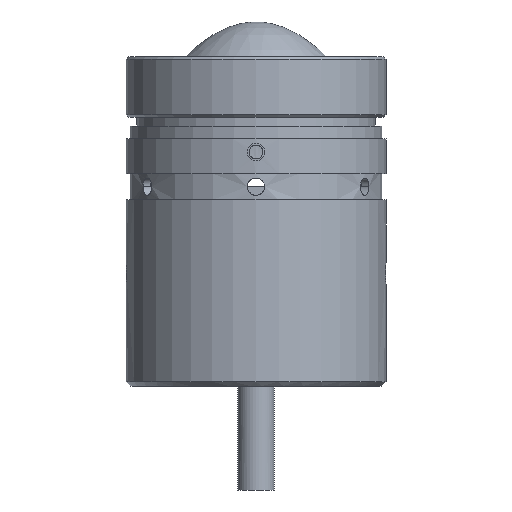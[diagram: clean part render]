
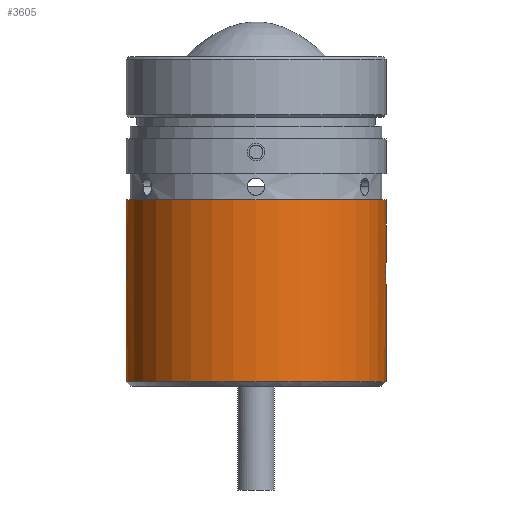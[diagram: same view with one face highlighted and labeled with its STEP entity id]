
A CAD part, front view. The second image highlights one B-rep face of the part: STEP entity #3605.
In plain terms, the highlighted cylindrical face has radius 15 mm (diameter 30 mm), a partial arc.
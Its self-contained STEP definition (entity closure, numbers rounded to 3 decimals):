
#427=DIRECTION('',(0.,0.,1.));
#428=VECTOR('',#427,11.25);
#429=CARTESIAN_POINT('',(15.,0.,-14.5));
#430=LINE('',#429,#428);
#440=CARTESIAN_POINT('',(15.,0.,-3.25));
#442=CARTESIAN_POINT('',(15.,0.,-0.75));
#455=DIRECTION('',(0.,0.,1.));
#456=VECTOR('',#455,7.25);
#457=CARTESIAN_POINT('',(15.,0.,-0.75));
#458=LINE('',#457,#456);
#475=CARTESIAN_POINT('',(-15.,0.,-0.75));
#477=CARTESIAN_POINT('',(-15.,0.,-3.25));
#1190=CARTESIAN_POINT('',(0.,0.,-14.5));
#1191=DIRECTION('',(0.,0.,-1.));
#1192=DIRECTION('',(1.,0.,0.));
#1193=AXIS2_PLACEMENT_3D('',#1190,#1191,#1192);
#1195=DIRECTION('',(0.,0.,1.));
#1196=VECTOR('',#1195,11.25);
#1197=CARTESIAN_POINT('',(-15.,0.,
-14.5));
#1198=LINE('',#1197,#1196);
#1199=CARTESIAN_POINT('',(-14.948,-1.25,-2.));
#1200=CARTESIAN_POINT('',(-14.948,-1.25,-2.104));
#1201=CARTESIAN_POINT('',(-14.95,-1.225,
-2.296));
#1202=CARTESIAN_POINT('',(-14.957,-1.137,
-2.537));
#1203=CARTESIAN_POINT('',(-14.965,-1.022,
-2.73));
#1204=CARTESIAN_POINT('',(-14.974,-0.886,
-2.89));
#1205=CARTESIAN_POINT('',(-14.982,-0.735,
-3.017));
#1206=CARTESIAN_POINT('',(-14.99,-0.569,
-3.119));
#1207=CARTESIAN_POINT('',(-14.995,-0.387,
-3.194));
#1208=CARTESIAN_POINT('',(-14.999,-0.195,
-3.24));
#1209=CARTESIAN_POINT('',(-15.,-0.065,-3.25));
#1210=CARTESIAN_POINT('',(-15.,0.,-3.25));
#1212=CARTESIAN_POINT('',(-15.,0.,-0.75));
#1213=CARTESIAN_POINT('',(-15.,-0.094,-0.75));
#1214=CARTESIAN_POINT('',(-14.998,-0.278,
-0.77));
#1215=CARTESIAN_POINT('',(-14.991,-0.55,
-0.866));
#1216=CARTESIAN_POINT('',(-14.98,-0.785,
-1.014));
#1217=CARTESIAN_POINT('',(-14.968,-0.988,
-1.216));
#1218=CARTESIAN_POINT('',(-14.957,-1.135,
-1.453));
#1219=CARTESIAN_POINT('',(-14.95,-1.23,
-1.722));
#1220=CARTESIAN_POINT('',(-14.948,-1.25,-1.906));
#1221=CARTESIAN_POINT('',(-14.948,-1.25,-2.));
#1223=DIRECTION('',(0.,0.,1.));
#1224=VECTOR('',#1223,7.25);
#1225=CARTESIAN_POINT('',(-15.,0.,-0.75));
#1226=LINE('',#1225,#1224);
#1227=CARTESIAN_POINT('',(0.,0.,6.5));
#1228=DIRECTION('',(0.,0.,1.));
#1229=DIRECTION('',(-1.,0.,0.));
#1230=AXIS2_PLACEMENT_3D('',#1227,#1228,#1229);
#1232=CARTESIAN_POINT('',(14.948,-1.25,-2.));
#1233=CARTESIAN_POINT('',(14.948,-1.25,-1.906));
#1234=CARTESIAN_POINT('',(14.95,-1.23,
-1.722));
#1235=CARTESIAN_POINT('',(14.957,-1.135,
-1.453));
#1236=CARTESIAN_POINT('',(14.968,-0.987,
-1.216));
#1237=CARTESIAN_POINT('',(14.98,-0.785,
-1.013));
#1238=CARTESIAN_POINT('',(14.991,-0.549,
-0.865));
#1239=CARTESIAN_POINT('',(14.998,-0.278,
-0.77));
#1240=CARTESIAN_POINT('',(15.,-0.094,-0.75));
#1241=CARTESIAN_POINT('',(15.,0.,-0.75));
#1243=CARTESIAN_POINT('',(15.,0.,-3.25));
#1244=CARTESIAN_POINT('',(15.,-0.065,-3.25));
#1245=CARTESIAN_POINT('',(14.999,-0.194,
-3.24));
#1246=CARTESIAN_POINT('',(14.995,-0.386,
-3.194));
#1247=CARTESIAN_POINT('',(14.99,-0.568,
-3.119));
#1248=CARTESIAN_POINT('',(14.982,-0.734,
-3.018));
#1249=CARTESIAN_POINT('',(14.974,-0.885,
-2.891));
#1250=CARTESIAN_POINT('',(14.965,-1.021,
-2.731));
#1251=CARTESIAN_POINT('',(14.957,-1.136,
-2.539));
#1252=CARTESIAN_POINT('',(14.95,-1.224,
-2.297));
#1253=CARTESIAN_POINT('',(14.948,-1.25,-2.104));
#1254=CARTESIAN_POINT('',(14.948,-1.25,-2.));
#1825=CARTESIAN_POINT('',(15.,0.,6.5));
#1826=CARTESIAN_POINT('',(-15.,0.,6.5));
#1827=VERTEX_POINT('',#1825);
#1828=VERTEX_POINT('',#1826);
#1971=VERTEX_POINT('',#477);
#1973=VERTEX_POINT('',#475);
#1974=VERTEX_POINT('',#1199);
#1983=CARTESIAN_POINT('',(14.948,-1.25,-2.));
#1984=VERTEX_POINT('',#1983);
#1985=VERTEX_POINT('',#440);
#1986=VERTEX_POINT('',#442);
#1987=CARTESIAN_POINT('',(15.,0.,-14.5));
#1988=CARTESIAN_POINT('',(-15.,0.,-14.5));
#1989=VERTEX_POINT('',#1987);
#1990=VERTEX_POINT('',#1988);
#3583=CARTESIAN_POINT('',(0.,0.,-15.));
#3584=DIRECTION('',(0.,0.,1.));
#3585=DIRECTION('',(1.,0.,0.));
#3586=AXIS2_PLACEMENT_3D('',#3583,#3584,#3585);
#3587=CYLINDRICAL_SURFACE('',#3586,15.);
#3588=ORIENTED_EDGE('',*,*,#2655,.T.);
#3589=ORIENTED_EDGE('',*,*,#2726,.T.);
#3591=ORIENTED_EDGE('',*,*,#3590,.F.);
#3593=ORIENTED_EDGE('',*,*,#3592,.F.);
#3594=ORIENTED_EDGE('',*,*,#2720,.T.);
#3596=ORIENTED_EDGE('',*,*,#3595,.T.);
#3597=ORIENTED_EDGE('',*,*,#2716,.F.);
#3599=ORIENTED_EDGE('',*,*,#3598,.F.);
#3601=ORIENTED_EDGE('',*,*,#3600,.F.);
#3602=ORIENTED_EDGE('',*,*,#2710,.F.);
#3603=EDGE_LOOP('',(#3588,#3589,#3591,#3593,#3594,#3596,#3597,#3599,#3601,
#3602));
#3604=FACE_OUTER_BOUND('',#3603,.F.);
#1194=CIRCLE('',#1193,15.);
#1211=B_SPLINE_CURVE_WITH_KNOTS('',3,(#1199,#1200,#1201,#1202,#1203,#1204,#1205,
#1206,#1207,#1208,#1209,#1210),.UNSPECIFIED.,.F.,.F.,(4,1,1,1,1,1,1,1,1,4),
(0.,0.111,0.222,0.333,0.444,
0.556,0.667,0.778,0.889,1.),
.UNSPECIFIED.);
#1222=B_SPLINE_CURVE_WITH_KNOTS('',3,(#1212,#1213,#1214,#1215,#1216,#1217,#1218,
#1219,#1220,#1221),.UNSPECIFIED.,.F.,.F.,(4,1,1,1,1,1,1,4),(0.,
0.143,0.286,0.429,0.571,
0.714,0.857,1.),.UNSPECIFIED.);
#1231=CIRCLE('',#1230,15.);
#1242=B_SPLINE_CURVE_WITH_KNOTS('',3,(#1232,#1233,#1234,#1235,#1236,#1237,#1238,
#1239,#1240,#1241),.UNSPECIFIED.,.F.,.F.,(4,1,1,1,1,1,1,4),(0.,
0.143,0.286,0.429,0.571,
0.714,0.857,1.),.UNSPECIFIED.);
#1255=B_SPLINE_CURVE_WITH_KNOTS('',3,(#1243,#1244,#1245,#1246,#1247,#1248,#1249,
#1250,#1251,#1252,#1253,#1254),.UNSPECIFIED.,.F.,.F.,(4,1,1,1,1,1,1,1,1,4),
(0.,0.111,0.222,0.333,0.444,
0.556,0.667,0.778,0.889,1.),
.UNSPECIFIED.);
#2655=EDGE_CURVE('',#1989,#1990,#1194,.T.);
#2710=EDGE_CURVE('',#1989,#1985,#430,.T.);
#2716=EDGE_CURVE('',#1986,#1827,#458,.T.);
#2720=EDGE_CURVE('',#1973,#1828,#1226,.T.);
#2726=EDGE_CURVE('',#1990,#1971,#1198,.T.);
#3590=EDGE_CURVE('',#1974,#1971,#1211,.T.);
#3592=EDGE_CURVE('',#1973,#1974,#1222,.T.);
#3595=EDGE_CURVE('',#1828,#1827,#1231,.T.);
#3598=EDGE_CURVE('',#1984,#1986,#1242,.T.);
#3600=EDGE_CURVE('',#1985,#1984,#1255,.T.);
#3605=ADVANCED_FACE('',(#3604),#3587,.T.);
